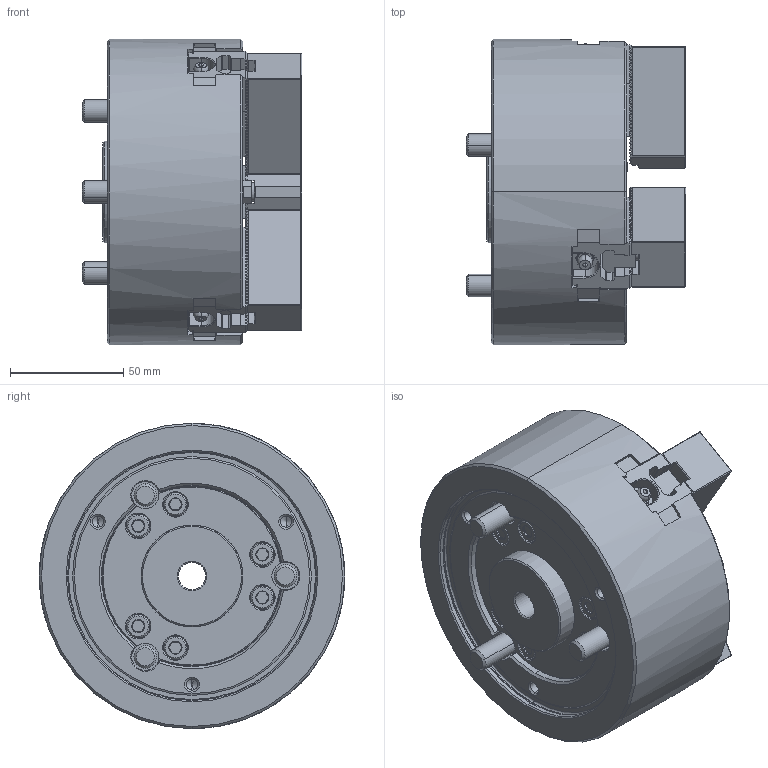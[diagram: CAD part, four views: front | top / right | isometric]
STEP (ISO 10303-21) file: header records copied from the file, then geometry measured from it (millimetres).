
FILE_DESCRIPTION (( 'STEP AP214' ), '1' );
FILE_NAME ('B-205_HOL.STEP', '2025-12-03T06:54:02', ( '' ), ( '' ), 'SwSTEP 2.0', 'SolidWorks 2022', '' );
FILE_SCHEMA (( 'AUTOMOTIVE_DESIGN' ));
Length unit declared in the file: millimetre
Products named in the file (9): DT1_B-205_COVER^DT1_B-205; DT1_B-205_M10x60^DT1_B-205; DT1_B-205_TNUT^DT1_B-205; DT1_B-205_M4x8^DT1_B-205; DT1_B-205_SOFTJAW^DT1_B-205; B-205_HOL; DT1_B-205_M8x20^DT1_B-205; DT1_B-205_BASE^DT1_B-205; DT1_B-205_DRAWNUT^DT1_B-205
Assembly tree (21 placements, depth 2):
  B-205_HOL
    DT1_B-205_SOFTJAW^DT1_B-205  x3
    DT1_B-205_TNUT^DT1_B-205  x3
    DT1_B-205_DRAWNUT^DT1_B-205
    DT1_B-205_COVER^DT1_B-205
    DT1_B-205_BASE^DT1_B-205
    DT1_B-205_M4x8^DT1_B-205  x3
    DT1_B-205_M8x20^DT1_B-205  x6
    DT1_B-205_M10x60^DT1_B-205  x3
Bounding box: 97 x 135 x 135 mm (x, y, z)
Volume: 834644.8 mm3; surface area: 144522.8 mm2
Topology: 21 solids, 33 shells, 3233 faces, 8942 edges, 5832 vertices
Faces by surface type: plane 2399, cylinder 303, cone 298, bspline 162, torus 59, sphere 12
Entity records: 86161 total; most frequent: CARTESIAN_POINT 24307, ORIENTED_EDGE 13570, DIRECTION 11370, EDGE_CURVE 6785, LINE 5214, VECTOR 5214, VERTEX_POINT 4452, AXIS2_PLACEMENT_3D 3078
